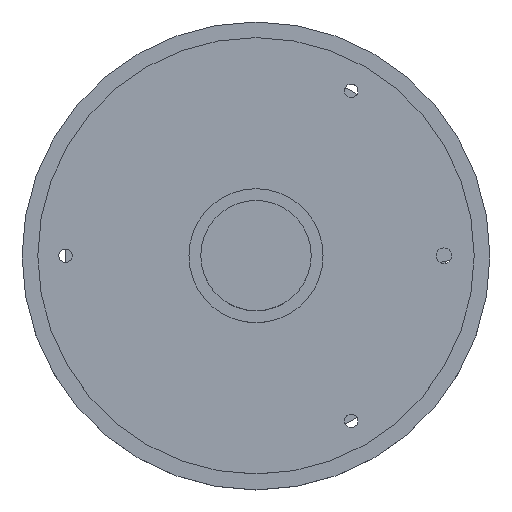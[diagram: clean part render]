
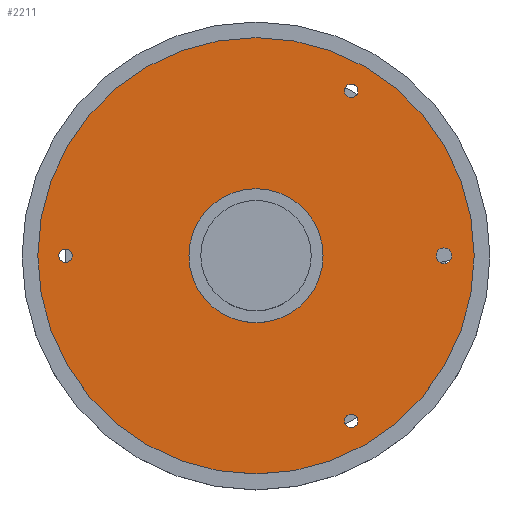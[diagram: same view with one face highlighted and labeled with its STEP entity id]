
A CAD part, top view. The second image highlights one B-rep face of the part: STEP entity #2211.
In plain terms, the highlighted planar face has unit normal (0, 0, 1).
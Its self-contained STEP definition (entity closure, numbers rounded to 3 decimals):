
#1955 = VERTEX_POINT('',#1956);
#1956 = CARTESIAN_POINT('',(166.,0.,4.));
#1963 = CYLINDRICAL_SURFACE('',#1964,166.);
#1964 = AXIS2_PLACEMENT_3D('',#1965,#1966,#1967);
#1965 = CARTESIAN_POINT('',(0.,0.,0.));
#1966 = DIRECTION('',(-0.,-0.,-1.));
#1967 = DIRECTION('',(1.,0.,0.));
#1982 = EDGE_CURVE('',#1955,#1955,#1983,.T.);
#1983 = SURFACE_CURVE('',#1984,(#1989,#1996),.PCURVE_S1.);
#1984 = CIRCLE('',#1985,166.);
#1985 = AXIS2_PLACEMENT_3D('',#1986,#1987,#1988);
#1986 = CARTESIAN_POINT('',(0.,0.,4.));
#1987 = DIRECTION('',(0.,0.,1.));
#1988 = DIRECTION('',(1.,0.,0.));
#1989 = PCURVE('',#1963,#1990);
#1990 = DEFINITIONAL_REPRESENTATION('',(#1991),#1995);
#1991 = LINE('',#1992,#1993);
#1992 = CARTESIAN_POINT('',(-0.,-4.));
#1993 = VECTOR('',#1994,1.);
#1994 = DIRECTION('',(-1.,0.));
#1995 = ( GEOMETRIC_REPRESENTATION_CONTEXT(2) 
PARAMETRIC_REPRESENTATION_CONTEXT() REPRESENTATION_CONTEXT('2D SPACE',''
  ) );
#1996 = PCURVE('',#1997,#2002);
#1997 = PLANE('',#1998);
#1998 = AXIS2_PLACEMENT_3D('',#1999,#2000,#2001);
#1999 = CARTESIAN_POINT('',(0.,0.,4.));
#2000 = DIRECTION('',(0.,0.,1.));
#2001 = DIRECTION('',(1.,0.,-0.));
#2002 = DEFINITIONAL_REPRESENTATION('',(#2003),#2007);
#2003 = CIRCLE('',#2004,166.);
#2004 = AXIS2_PLACEMENT_2D('',#2005,#2006);
#2005 = CARTESIAN_POINT('',(0.,0.));
#2006 = DIRECTION('',(1.,0.));
#2007 = ( GEOMETRIC_REPRESENTATION_CONTEXT(2) 
PARAMETRIC_REPRESENTATION_CONTEXT() REPRESENTATION_CONTEXT('2D SPACE',''
  ) );
#2064 = CYLINDRICAL_SURFACE('',#2065,5.1);
#2065 = AXIS2_PLACEMENT_3D('',#2066,#2067,#2068);
#2066 = CARTESIAN_POINT('',(72.5,-125.574,4.));
#2067 = DIRECTION('',(0.,0.,-1.));
#2068 = DIRECTION('',(-1.,0.,0.));
#2099 = CYLINDRICAL_SURFACE('',#2100,5.1);
#2100 = AXIS2_PLACEMENT_3D('',#2101,#2102,#2103);
#2101 = CARTESIAN_POINT('',(-145.,0.,4.));
#2102 = DIRECTION('',(0.,0.,-1.));
#2103 = DIRECTION('',(-1.,0.,0.));
#2130 = CYLINDRICAL_SURFACE('',#2131,43.);
#2131 = AXIS2_PLACEMENT_3D('',#2132,#2133,#2134);
#2132 = CARTESIAN_POINT('',(0.,0.,-328.));
#2133 = DIRECTION('',(-0.,-0.,-1.));
#2134 = DIRECTION('',(1.,0.,0.));
#2165 = CYLINDRICAL_SURFACE('',#2166,6.);
#2166 = AXIS2_PLACEMENT_3D('',#2167,#2168,#2169);
#2167 = CARTESIAN_POINT('',(143.,0.,4.));
#2168 = DIRECTION('',(0.,0.,-1.));
#2169 = DIRECTION('',(-1.,0.,0.));
#2200 = CYLINDRICAL_SURFACE('',#2201,5.1);
#2201 = AXIS2_PLACEMENT_3D('',#2202,#2203,#2204);
#2202 = CARTESIAN_POINT('',(72.5,125.574,4.));
#2203 = DIRECTION('',(0.,0.,-1.));
#2204 = DIRECTION('',(-1.,0.,0.));
#2211 = ADVANCED_FACE('',(#2212,#2215,#2245,#2275,#2305,#2335),#1997,.T.
  );
#2212 = FACE_BOUND('',#2213,.T.);
#2213 = EDGE_LOOP('',(#2214));
#2214 = ORIENTED_EDGE('',*,*,#1982,.T.);
#2215 = FACE_BOUND('',#2216,.T.);
#2216 = EDGE_LOOP('',(#2217));
#2217 = ORIENTED_EDGE('',*,*,#2218,.T.);
#2218 = EDGE_CURVE('',#2219,#2219,#2221,.T.);
#2219 = VERTEX_POINT('',#2220);
#2220 = CARTESIAN_POINT('',(67.4,-125.574,4.));
#2221 = SURFACE_CURVE('',#2222,(#2227,#2238),.PCURVE_S1.);
#2222 = CIRCLE('',#2223,5.1);
#2223 = AXIS2_PLACEMENT_3D('',#2224,#2225,#2226);
#2224 = CARTESIAN_POINT('',(72.5,-125.574,4.));
#2225 = DIRECTION('',(0.,0.,-1.));
#2226 = DIRECTION('',(-1.,0.,0.));
#2227 = PCURVE('',#1997,#2228);
#2228 = DEFINITIONAL_REPRESENTATION('',(#2229),#2237);
#2229 = ( BOUNDED_CURVE() B_SPLINE_CURVE(2,(#2230,#2231,#2232,#2233,
#2234,#2235,#2236),.UNSPECIFIED.,.T.,.F.) B_SPLINE_CURVE_WITH_KNOTS((1,2
    ,2,2,2,1),(-2.094,0.,2.094,4.189,
6.283,8.378),.UNSPECIFIED.) CURVE() 
GEOMETRIC_REPRESENTATION_ITEM() RATIONAL_B_SPLINE_CURVE((1.,0.5,1.,0.5,
1.,0.5,1.)) REPRESENTATION_ITEM('') );
#2230 = CARTESIAN_POINT('',(67.4,-125.574));
#2231 = CARTESIAN_POINT('',(67.4,-116.74));
#2232 = CARTESIAN_POINT('',(75.05,-121.157));
#2233 = CARTESIAN_POINT('',(82.7,-125.574));
#2234 = CARTESIAN_POINT('',(75.05,-129.99));
#2235 = CARTESIAN_POINT('',(67.4,-134.407));
#2236 = CARTESIAN_POINT('',(67.4,-125.574));
#2237 = ( GEOMETRIC_REPRESENTATION_CONTEXT(2) 
PARAMETRIC_REPRESENTATION_CONTEXT() REPRESENTATION_CONTEXT('2D SPACE',''
  ) );
#2238 = PCURVE('',#2064,#2239);
#2239 = DEFINITIONAL_REPRESENTATION('',(#2240),#2244);
#2240 = LINE('',#2241,#2242);
#2241 = CARTESIAN_POINT('',(0.,0.));
#2242 = VECTOR('',#2243,1.);
#2243 = DIRECTION('',(1.,0.));
#2244 = ( GEOMETRIC_REPRESENTATION_CONTEXT(2) 
PARAMETRIC_REPRESENTATION_CONTEXT() REPRESENTATION_CONTEXT('2D SPACE',''
  ) );
#2245 = FACE_BOUND('',#2246,.T.);
#2246 = EDGE_LOOP('',(#2247));
#2247 = ORIENTED_EDGE('',*,*,#2248,.T.);
#2248 = EDGE_CURVE('',#2249,#2249,#2251,.T.);
#2249 = VERTEX_POINT('',#2250);
#2250 = CARTESIAN_POINT('',(-150.1,0.,4.));
#2251 = SURFACE_CURVE('',#2252,(#2257,#2268),.PCURVE_S1.);
#2252 = CIRCLE('',#2253,5.1);
#2253 = AXIS2_PLACEMENT_3D('',#2254,#2255,#2256);
#2254 = CARTESIAN_POINT('',(-145.,0.,4.));
#2255 = DIRECTION('',(0.,0.,-1.));
#2256 = DIRECTION('',(-1.,0.,0.));
#2257 = PCURVE('',#1997,#2258);
#2258 = DEFINITIONAL_REPRESENTATION('',(#2259),#2267);
#2259 = ( BOUNDED_CURVE() B_SPLINE_CURVE(2,(#2260,#2261,#2262,#2263,
#2264,#2265,#2266),.UNSPECIFIED.,.T.,.F.) B_SPLINE_CURVE_WITH_KNOTS((1,2
    ,2,2,2,1),(-2.094,0.,2.094,4.189,
6.283,8.378),.UNSPECIFIED.) CURVE() 
GEOMETRIC_REPRESENTATION_ITEM() RATIONAL_B_SPLINE_CURVE((1.,0.5,1.,0.5,
1.,0.5,1.)) REPRESENTATION_ITEM('') );
#2260 = CARTESIAN_POINT('',(-150.1,0.));
#2261 = CARTESIAN_POINT('',(-150.1,8.833));
#2262 = CARTESIAN_POINT('',(-142.45,4.417));
#2263 = CARTESIAN_POINT('',(-134.8,0.));
#2264 = CARTESIAN_POINT('',(-142.45,-4.417));
#2265 = CARTESIAN_POINT('',(-150.1,-8.833));
#2266 = CARTESIAN_POINT('',(-150.1,0.));
#2267 = ( GEOMETRIC_REPRESENTATION_CONTEXT(2) 
PARAMETRIC_REPRESENTATION_CONTEXT() REPRESENTATION_CONTEXT('2D SPACE',''
  ) );
#2268 = PCURVE('',#2099,#2269);
#2269 = DEFINITIONAL_REPRESENTATION('',(#2270),#2274);
#2270 = LINE('',#2271,#2272);
#2271 = CARTESIAN_POINT('',(0.,0.));
#2272 = VECTOR('',#2273,1.);
#2273 = DIRECTION('',(1.,0.));
#2274 = ( GEOMETRIC_REPRESENTATION_CONTEXT(2) 
PARAMETRIC_REPRESENTATION_CONTEXT() REPRESENTATION_CONTEXT('2D SPACE',''
  ) );
#2275 = FACE_BOUND('',#2276,.T.);
#2276 = EDGE_LOOP('',(#2277));
#2277 = ORIENTED_EDGE('',*,*,#2278,.T.);
#2278 = EDGE_CURVE('',#2279,#2279,#2281,.T.);
#2279 = VERTEX_POINT('',#2280);
#2280 = CARTESIAN_POINT('',(43.,0.,4.));
#2281 = SURFACE_CURVE('',#2282,(#2287,#2298),.PCURVE_S1.);
#2282 = CIRCLE('',#2283,43.);
#2283 = AXIS2_PLACEMENT_3D('',#2284,#2285,#2286);
#2284 = CARTESIAN_POINT('',(0.,0.,4.));
#2285 = DIRECTION('',(0.,0.,-1.));
#2286 = DIRECTION('',(1.,0.,0.));
#2287 = PCURVE('',#1997,#2288);
#2288 = DEFINITIONAL_REPRESENTATION('',(#2289),#2297);
#2289 = ( BOUNDED_CURVE() B_SPLINE_CURVE(2,(#2290,#2291,#2292,#2293,
#2294,#2295,#2296),.UNSPECIFIED.,.T.,.F.) B_SPLINE_CURVE_WITH_KNOTS((1,2
    ,2,2,2,1),(-2.094,0.,2.094,4.189,
6.283,8.378),.UNSPECIFIED.) CURVE() 
GEOMETRIC_REPRESENTATION_ITEM() RATIONAL_B_SPLINE_CURVE((1.,0.5,1.,0.5,
1.,0.5,1.)) REPRESENTATION_ITEM('') );
#2290 = CARTESIAN_POINT('',(43.,0.));
#2291 = CARTESIAN_POINT('',(43.,-74.478));
#2292 = CARTESIAN_POINT('',(-21.5,-37.239));
#2293 = CARTESIAN_POINT('',(-86.,0.));
#2294 = CARTESIAN_POINT('',(-21.5,37.239));
#2295 = CARTESIAN_POINT('',(43.,74.478));
#2296 = CARTESIAN_POINT('',(43.,0.));
#2297 = ( GEOMETRIC_REPRESENTATION_CONTEXT(2) 
PARAMETRIC_REPRESENTATION_CONTEXT() REPRESENTATION_CONTEXT('2D SPACE',''
  ) );
#2298 = PCURVE('',#2130,#2299);
#2299 = DEFINITIONAL_REPRESENTATION('',(#2300),#2304);
#2300 = LINE('',#2301,#2302);
#2301 = CARTESIAN_POINT('',(-6.283,-332.));
#2302 = VECTOR('',#2303,1.);
#2303 = DIRECTION('',(1.,-0.));
#2304 = ( GEOMETRIC_REPRESENTATION_CONTEXT(2) 
PARAMETRIC_REPRESENTATION_CONTEXT() REPRESENTATION_CONTEXT('2D SPACE',''
  ) );
#2305 = FACE_BOUND('',#2306,.T.);
#2306 = EDGE_LOOP('',(#2307));
#2307 = ORIENTED_EDGE('',*,*,#2308,.T.);
#2308 = EDGE_CURVE('',#2309,#2309,#2311,.T.);
#2309 = VERTEX_POINT('',#2310);
#2310 = CARTESIAN_POINT('',(137.,0.,4.));
#2311 = SURFACE_CURVE('',#2312,(#2317,#2328),.PCURVE_S1.);
#2312 = CIRCLE('',#2313,6.);
#2313 = AXIS2_PLACEMENT_3D('',#2314,#2315,#2316);
#2314 = CARTESIAN_POINT('',(143.,0.,4.));
#2315 = DIRECTION('',(0.,0.,-1.));
#2316 = DIRECTION('',(-1.,0.,0.));
#2317 = PCURVE('',#1997,#2318);
#2318 = DEFINITIONAL_REPRESENTATION('',(#2319),#2327);
#2319 = ( BOUNDED_CURVE() B_SPLINE_CURVE(2,(#2320,#2321,#2322,#2323,
#2324,#2325,#2326),.UNSPECIFIED.,.T.,.F.) B_SPLINE_CURVE_WITH_KNOTS((1,2
    ,2,2,2,1),(-2.094,0.,2.094,4.189,
6.283,8.378),.UNSPECIFIED.) CURVE() 
GEOMETRIC_REPRESENTATION_ITEM() RATIONAL_B_SPLINE_CURVE((1.,0.5,1.,0.5,
1.,0.5,1.)) REPRESENTATION_ITEM('') );
#2320 = CARTESIAN_POINT('',(137.,0.));
#2321 = CARTESIAN_POINT('',(137.,10.392));
#2322 = CARTESIAN_POINT('',(146.,5.196));
#2323 = CARTESIAN_POINT('',(155.,0.));
#2324 = CARTESIAN_POINT('',(146.,-5.196));
#2325 = CARTESIAN_POINT('',(137.,-10.392));
#2326 = CARTESIAN_POINT('',(137.,0.));
#2327 = ( GEOMETRIC_REPRESENTATION_CONTEXT(2) 
PARAMETRIC_REPRESENTATION_CONTEXT() REPRESENTATION_CONTEXT('2D SPACE',''
  ) );
#2328 = PCURVE('',#2165,#2329);
#2329 = DEFINITIONAL_REPRESENTATION('',(#2330),#2334);
#2330 = LINE('',#2331,#2332);
#2331 = CARTESIAN_POINT('',(0.,0.));
#2332 = VECTOR('',#2333,1.);
#2333 = DIRECTION('',(1.,0.));
#2334 = ( GEOMETRIC_REPRESENTATION_CONTEXT(2) 
PARAMETRIC_REPRESENTATION_CONTEXT() REPRESENTATION_CONTEXT('2D SPACE',''
  ) );
#2335 = FACE_BOUND('',#2336,.T.);
#2336 = EDGE_LOOP('',(#2337));
#2337 = ORIENTED_EDGE('',*,*,#2338,.T.);
#2338 = EDGE_CURVE('',#2339,#2339,#2341,.T.);
#2339 = VERTEX_POINT('',#2340);
#2340 = CARTESIAN_POINT('',(67.4,125.574,4.));
#2341 = SURFACE_CURVE('',#2342,(#2347,#2358),.PCURVE_S1.);
#2342 = CIRCLE('',#2343,5.1);
#2343 = AXIS2_PLACEMENT_3D('',#2344,#2345,#2346);
#2344 = CARTESIAN_POINT('',(72.5,125.574,4.));
#2345 = DIRECTION('',(0.,0.,-1.));
#2346 = DIRECTION('',(-1.,0.,0.));
#2347 = PCURVE('',#1997,#2348);
#2348 = DEFINITIONAL_REPRESENTATION('',(#2349),#2357);
#2349 = ( BOUNDED_CURVE() B_SPLINE_CURVE(2,(#2350,#2351,#2352,#2353,
#2354,#2355,#2356),.UNSPECIFIED.,.T.,.F.) B_SPLINE_CURVE_WITH_KNOTS((1,2
    ,2,2,2,1),(-2.094,0.,2.094,4.189,
6.283,8.378),.UNSPECIFIED.) CURVE() 
GEOMETRIC_REPRESENTATION_ITEM() RATIONAL_B_SPLINE_CURVE((1.,0.5,1.,0.5,
1.,0.5,1.)) REPRESENTATION_ITEM('') );
#2350 = CARTESIAN_POINT('',(67.4,125.574));
#2351 = CARTESIAN_POINT('',(67.4,134.407));
#2352 = CARTESIAN_POINT('',(75.05,129.99));
#2353 = CARTESIAN_POINT('',(82.7,125.574));
#2354 = CARTESIAN_POINT('',(75.05,121.157));
#2355 = CARTESIAN_POINT('',(67.4,116.74));
#2356 = CARTESIAN_POINT('',(67.4,125.574));
#2357 = ( GEOMETRIC_REPRESENTATION_CONTEXT(2) 
PARAMETRIC_REPRESENTATION_CONTEXT() REPRESENTATION_CONTEXT('2D SPACE',''
  ) );
#2358 = PCURVE('',#2200,#2359);
#2359 = DEFINITIONAL_REPRESENTATION('',(#2360),#2364);
#2360 = LINE('',#2361,#2362);
#2361 = CARTESIAN_POINT('',(0.,0.));
#2362 = VECTOR('',#2363,1.);
#2363 = DIRECTION('',(1.,0.));
#2364 = ( GEOMETRIC_REPRESENTATION_CONTEXT(2) 
PARAMETRIC_REPRESENTATION_CONTEXT() REPRESENTATION_CONTEXT('2D SPACE',''
  ) );
